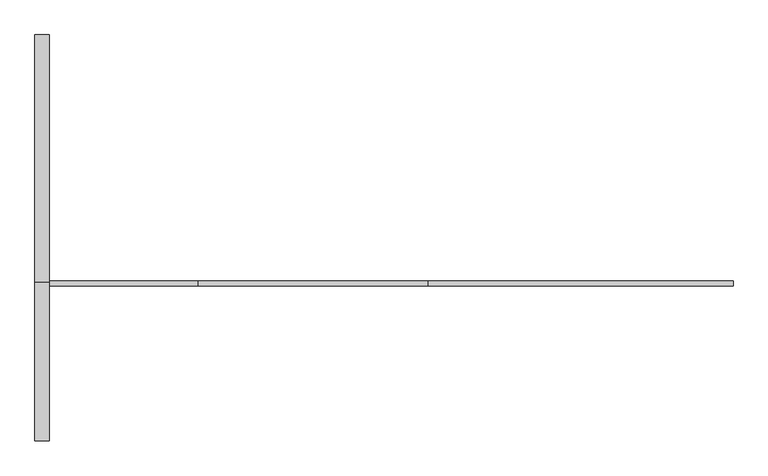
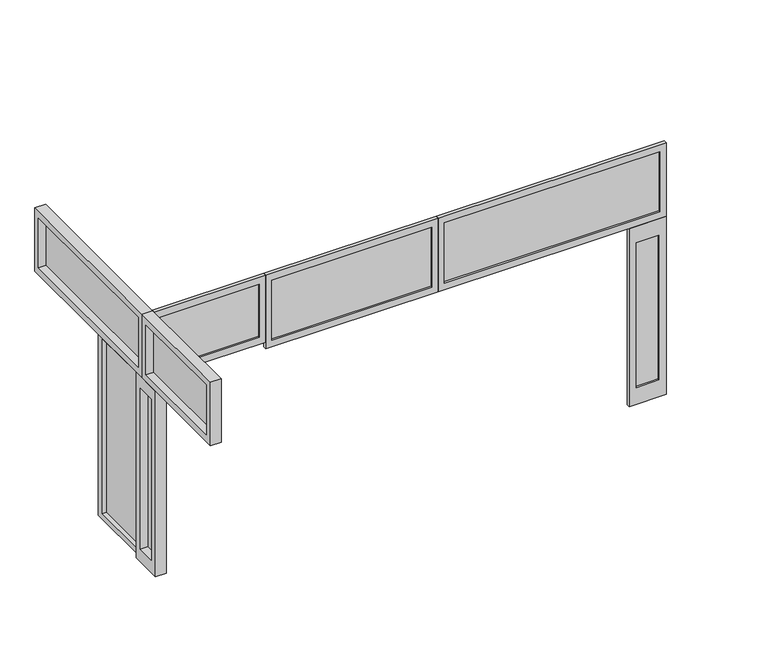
"""IFC4 building model written with IfcOpenShell, lengths in millimetres: beam geometry, Inside partition_Config1 : Inside partition_Config1."""

from ifc_helpers import new_model, si_unit, frame, origin, place, context, project, spatial, polyline, outline, extrude, source, transform, mapped, element, save


def beam_673a7438(model_context):
    return source(origin(), model_context, "Body", "SweptSolid", [
        extrude(outline(polyline([(2638.1398229, 1209.4536785), (2638.1398229, 3069.2536785), (2646.4526089, 3069.2536785), (2646.4526089, 1209.4536785), (2638.1398229, 1209.4536785)])), frame((0.0, 0.0, 2607.1699528), z_axis=(0.0, 0.0, 1.0), x_axis=(1.0, 0.0, 0.0)), (0.0, 0.0, 1.0), 566.0),
        extrude(outline(polyline([(1146.4536785, 3249.1699528), (3132.2536785, 3249.1699528), (3132.2536785, 2531.1699528), (1146.4536785, 2531.1699528), (1146.4536785, 3249.1699528)]), holes=[polyline([(1209.4536785, 3173.1699528), (1209.4536785, 2607.1699528), (3069.2536785, 2607.1699528), (3069.2536785, 3173.1699528), (1209.4536785, 3173.1699528)])]), frame((2555.8144392, 0.0, 0.0), z_axis=(1.0, 0.0, 0.0), x_axis=(0.0, 1.0, 0.0)), (0.0, 0.0, 1.0), 114.0),
        extrude(outline(polyline([(2638.1398229, -52.9130393), (2638.1398229, 1067.5890812), (2646.4526089, 1067.5890812), (2646.4526089, -52.9130393), (2638.1398229, -52.9130393)])), frame((0.0, 0.0, 2607.1699528), z_axis=(0.0, 0.0, 1.0), x_axis=(1.0, 0.0, 0.0)), (0.0, 0.0, 1.0), 566.0),
        extrude(outline(polyline([(-131.161979, 3249.1699528), (1145.838021, 3249.1699528), (1145.838021, 2531.1699528), (-131.161979, 2531.1699528), (-131.161979, 3249.1699528)]), holes=[polyline([(-52.9130393, 3173.1699528), (-52.9130393, 2607.1699528), (1067.5890812, 2607.1699528), (1067.5890812, 3173.1699528), (-52.9130393, 3173.1699528)])]), frame((2555.8144392, 0.0, 0.0), z_axis=(1.0, 0.0, 0.0), x_axis=(0.0, 1.0, 0.0)), (0.0, 0.0, 1.0), 114.0),
        extrude(outline(polyline([(2638.1398229, 967.5360896), (2638.1398229, 1175.5360896), (2646.4526089, 1175.5360896), (2646.4526089, 967.5360896), (2638.1398229, 967.5360896)])), frame((0.0, 0.0, 563.2908703), z_axis=(0.0, 0.0, 1.0), x_axis=(1.0, 0.0, 0.0)), (0.0, 0.0, 1.0), 1825.758165),
        extrude(outline(polyline([(891.5360896, 2529.6699528), (1251.5360896, 2529.6699528), (1251.5360896, 422.6699528), (891.5360896, 422.6699528), (891.5360896, 2529.6699528)]), holes=[polyline([(967.5360896, 2389.0490353), (967.5360896, 563.2908703), (1175.5360896, 563.2908703), (1175.5360896, 2389.0490353), (967.5360896, 2389.0490353)])]), frame((2555.8144392, 0.0, 0.0), z_axis=(1.0, 0.0, 0.0), x_axis=(0.0, 1.0, 0.0)), (0.0, 0.0, 1.0), 114.0),
        extrude(outline(polyline([(8097.5036528, 1133.472954), (5784.5036528, 1133.472954), (5784.5036528, 1152.472954), (8097.5036528, 1152.472954), (8097.5036528, 1133.472954)])), frame((0.0, 0.0, 2491.0), z_axis=(0.0, 0.0, 1.0), x_axis=(1.0, 0.0, 0.0)), (0.0, 0.0, 1.0), 682.0),
        extrude(outline(polyline([(3249.0, 8164.5036528), (3249.0, 5717.5036528), (2415.0, 5717.5036528), (2415.0, 8164.5036528), (3249.0, 8164.5036528)]), holes=[polyline([(3173.0, 8097.5036528), (2491.0, 8097.5036528), (2491.0, 5784.5036528), (3173.0, 5784.5036528), (3173.0, 8097.5036528)])]), frame((0.0, 1114.472954, 0.0), z_axis=(0.0, 1.0, 0.0), x_axis=(0.0, 0.0, 1.0)), (0.0, 0.0, 1.0), 38.0),
        extrude(outline(polyline([(5650.004924, 1132.4621746), (3933.004924, 1132.4621746), (3933.004924, 1151.4621746), (5650.004924, 1151.4621746), (5650.004924, 1132.4621746)])), frame((0.0, 0.0, 2491.0), z_axis=(0.0, 0.0, 1.0), x_axis=(1.0, 0.0, 0.0)), (0.0, 0.0, 1.0), 682.0),
        extrude(outline(polyline([(3249.0, 5717.004924), (3249.0, 3866.004924), (2415.0, 3866.004924), (2415.0, 5717.004924), (3249.0, 5717.004924)]), holes=[polyline([(3173.0, 5650.004924), (2491.0, 5650.004924), (2491.0, 3933.004924), (3173.0, 3933.004924), (3173.0, 5650.004924)])]), frame((0.0, 1113.4621746, 0.0), z_axis=(0.0, 1.0, 0.0), x_axis=(0.0, 0.0, 1.0)), (0.0, 0.0, 1.0), 38.0),
        extrude(outline(polyline([(3800.004924, 1132.4621746), (2736.004924, 1132.4621746), (2736.004924, 1151.4621746), (3800.004924, 1151.4621746), (3800.004924, 1132.4621746)])), frame((0.0, 0.0, 2570.0), z_axis=(0.0, 0.0, 1.0), x_axis=(1.0, 0.0, 0.0)), (0.0, 0.0, 1.0), 603.0),
        extrude(outline(polyline([(3249.0, 3866.004924), (3249.0, 2670.004924), (2494.0, 2670.004924), (2494.0, 3866.004924), (3249.0, 3866.004924)]), holes=[polyline([(3173.0, 3800.004924), (2570.0, 3800.004924), (2570.0, 2736.004924), (3173.0, 2736.004924), (3173.0, 3800.004924)])]), frame((0.0, 1113.4621746, 0.0), z_axis=(0.0, 1.0, 0.0), x_axis=(0.0, 0.0, 1.0)), (0.0, 0.0, 1.0), 38.0),
        extrude(outline(polyline([(2638.1398229, 1327.5476402), (2638.1398229, 1943.5476402), (2646.4526089, 1943.5476402), (2646.4526089, 1327.5476402), (2638.1398229, 1327.5476402)])), frame((0.0, 0.0, 488.4299431), z_axis=(0.0, 0.0, 1.0), x_axis=(1.0, 0.0, 0.0)), (0.0, 0.0, 1.0), 1981.0),
        extrude(outline(polyline([(1251.5476402, 2532.4299431), (2019.5476402, 2532.4299431), (2019.5476402, 425.4299431), (1251.5476402, 425.4299431), (1251.5476402, 2532.4299431)]), holes=[polyline([(1327.5476402, 2469.4299431), (1327.5476402, 488.4299431), (1943.5476402, 488.4299431), (1943.5476402, 2469.4299431), (1327.5476402, 2469.4299431)])]), frame((2593.8144392, 0.0, 0.0), z_axis=(1.0, 0.0, 0.0), x_axis=(0.0, 1.0, 0.0)), (0.0, 0.0, 1.0), 76.0),
        extrude(outline(polyline([(8088.5036528, 1133.472954), (7843.5036528, 1133.472954), (7843.5036528, 1152.472954), (8088.5036528, 1152.472954), (8088.5036528, 1133.472954)])), frame((0.0, 0.0, 584.2989296), z_axis=(0.0, 0.0, 1.0), x_axis=(1.0, 0.0, 0.0)), (0.0, 0.0, 1.0), 1641.4021408),
        extrude(outline(polyline([(2415.0, 8164.5036528), (2415.0, 7767.5036528), (395.0, 7767.5036528), (395.0, 8164.5036528), (2415.0, 8164.5036528)]), holes=[polyline([(2225.7010704, 8088.5036528), (584.2989296, 8088.5036528), (584.2989296, 7843.5036528), (2225.7010704, 7843.5036528), (2225.7010704, 8088.5036528)])]), frame((0.0, 1114.472954, 0.0), z_axis=(0.0, 1.0, 0.0), x_axis=(0.0, 0.0, 1.0)), (0.0, 0.0, 1.0), 38.0),
    ])


if __name__ == "__main__":
    model = new_model("IFC4")
    model_context = context("Model", 3, world=origin())
    ifc_project = project(units=[si_unit("LENGTHUNIT", "METRE", prefix="MILLI")], contexts=[model_context])
    site = spatial("IfcSite", under=ifc_project)
    building = spatial("IfcBuilding", under=site)
    placement = place(None, origin())
    beam_shape = beam_673a7438(model_context)
    element("IfcBeam", 1, ObjectType="Inside partition_Config1 : Inside partition_Config1", at=placement, inside=building, context=model_context, shape_type="MappedRepresentation", body=[
        mapped(beam_shape, transform((0.0, 0.0, 0.0), x_axis=(1.0, 0.0, 0.0), y_axis=(0.0, 1.0, 0.0), z_axis=(0.0, 0.0, 1.0))),
    ])
    save(model, "model.ifc")
